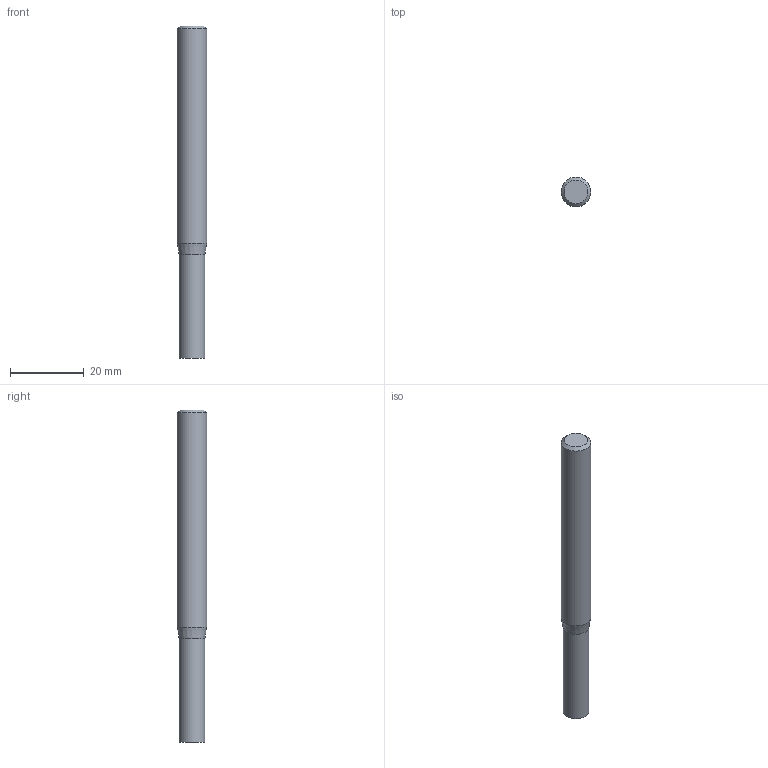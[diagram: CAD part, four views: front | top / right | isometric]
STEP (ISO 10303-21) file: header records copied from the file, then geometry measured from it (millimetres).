
FILE_DESCRIPTION((''),'2;1');
FILE_NAME('C:\Users\nsx150\AppData\Local\Temp\Mastercam 2021\W9Z147XDNF\TEMP.step','2021-04-08T14:47:22',(''),(''),'STEP Write','Mastercam 2021 ... CNC Software, Inc.','');
FILE_SCHEMA(('AUTOMOTIVE_DESIGN'));
Length unit declared in the file: millimetre
Products named in the file (1): None
Bounding box: 8 x 8 x 90 mm (x, y, z)
Volume: 4167.5 mm3; surface area: 2323.1 mm2
Topology: 2 solids, 2 shells, 8 faces, 10 edges, 6 vertices
Faces by surface type: plane 4, cylinder 2, cone 2
Full cylindrical faces by diameter (mm): 7 x1, 8 x1
Entity records: 190 total; most frequent: DIRECTION 32, CARTESIAN_POINT 22, AXIS2_PLACEMENT_3D 16, ORIENTED_EDGE 12, EDGE_LOOP 12, STYLED_ITEM 11, ADVANCED_FACE 8, VERTEX_POINT 6
